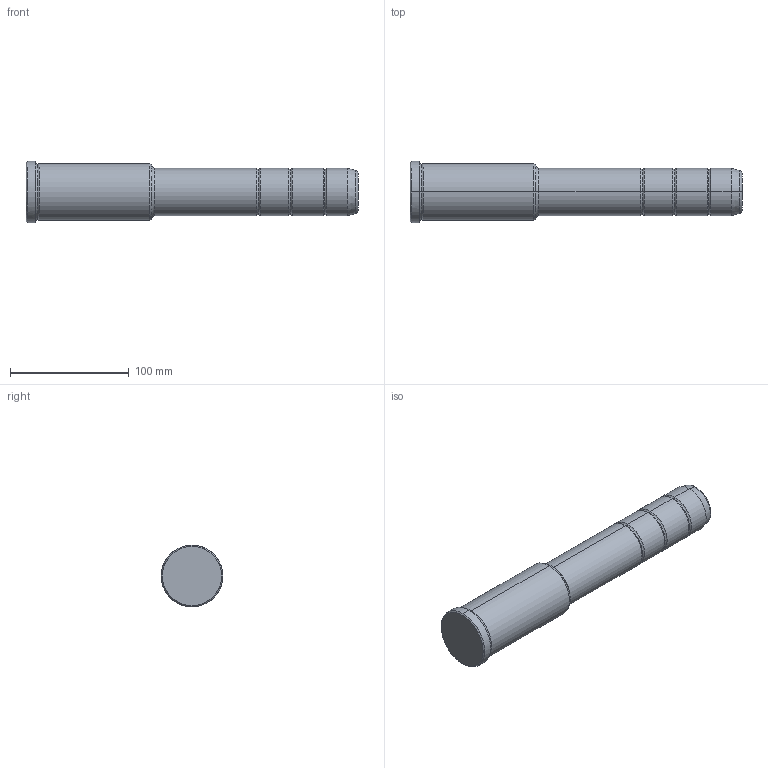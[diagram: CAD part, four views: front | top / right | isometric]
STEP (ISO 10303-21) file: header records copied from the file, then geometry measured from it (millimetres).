
FILE_DESCRIPTION(('CATIA V5 STEP Exchange'),'2;1');
FILE_NAME('C:\Users\Utente\Desktop\IO LAVORO\3D X SITO CF\X SITO\PLASTICA\351\351-40X106X280.stp','2021-10-07T13:41:48+00:00',('none'),('none'),'CATIA Version 5 Release 20 GA (IN-10)','CATIA V5 STEP AP203','none');
FILE_SCHEMA(('CONFIG_CONTROL_DESIGN'));
Length unit declared in the file: millimetre
Products named in the file (1): 351-40X106X280
Bounding box: 280 x 52 x 52 mm (x, y, z)
Volume: 410530.6 mm3; surface area: 41733.5 mm2
Topology: 1 solids, 1 shells, 42 faces, 118 edges, 80 vertices
Faces by surface type: torus 20, cylinder 12, cone 6, plane 4
Entity records: 1472 total; most frequent: CARTESIAN_POINT 353, ORIENTED_EDGE 236, DIRECTION 194, AXIS2_PLACEMENT_3D 135, EDGE_CURVE 118, CIRCLE 92, VERTEX_POINT 80, EDGE_LOOP 44
